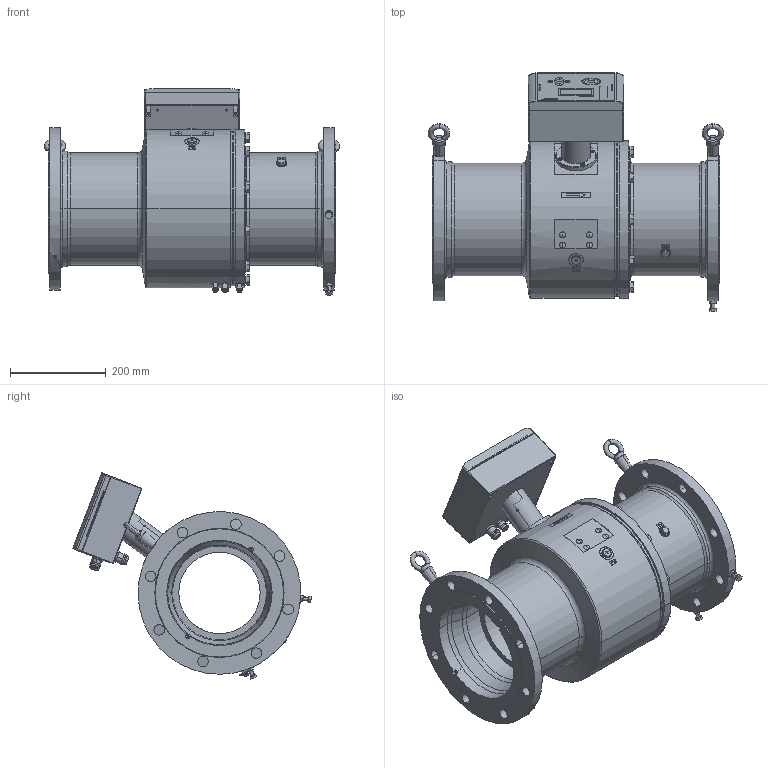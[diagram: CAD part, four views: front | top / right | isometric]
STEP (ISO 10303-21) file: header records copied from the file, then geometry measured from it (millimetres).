
FILE_DESCRIPTION((''),'2;1');
FILE_NAME('STANDARD_SW0001_PN10_RE','2023-09-11T08:30:02',('R85801'),(''),'CREO PARAMETRIC BY PTC INC, 2022281','CREO PARAMETRIC BY PTC INC, 2022281','');
FILE_SCHEMA(('AP242_MANAGED_MODEL_BASED_3D_ENGINEERING_MIM_LF { 1 0 10303 442 1 1 4 }'));
Products named in the file (2): STANDARD_SW0001_PN10_RE; 10038_S235JRG2
Bounding box: 616.97 x 498.25 x 431.13 mm (x, y, z)
Volume: 18396500.8 mm3; surface area: 1728105.7 mm2
Topology: 12 solids, 22 shells, 3859 faces, 9743 edges, 6220 vertices
Faces by surface type: plane 1883, cylinder 632, extrusion 632, cone 392, torus 268, sphere 40, bspline 12
Entity records: 184721 total; most frequent: CARTESIAN_POINT 29849, ORIENTED_EDGE 19390, DIRECTION 17628, PRESENTATION_STYLE_ASSIGNMENT 14167, STYLED_ITEM 10344, CURVE_STYLE 10331, EDGE_CURVE 9695, VECTOR 6470
